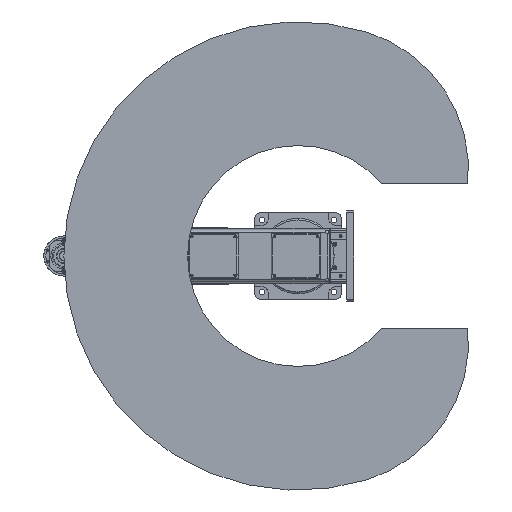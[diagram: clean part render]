
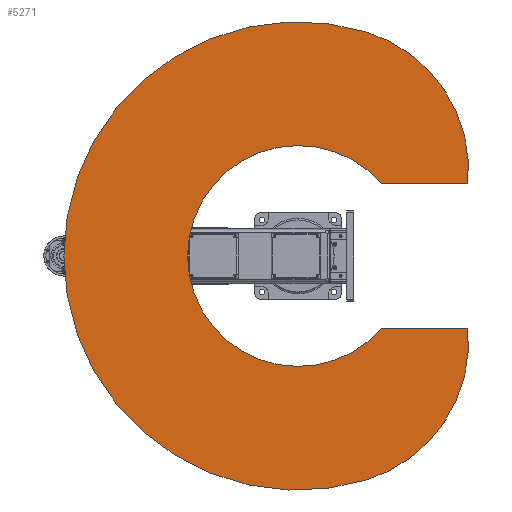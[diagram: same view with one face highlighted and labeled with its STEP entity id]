
A CAD part, front view. The second image highlights one B-rep face of the part: STEP entity #5271.
In plain terms, the highlighted planar face has unit normal (0, -1, 0).
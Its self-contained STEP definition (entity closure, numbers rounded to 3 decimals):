
#5271 = ADVANCED_FACE( '', ( #12225 ), #12226, .F. );
#12225 = FACE_OUTER_BOUND( '', #21467, .T. );
#12226 = PLANE( '', #21468 );
#21467 = EDGE_LOOP( '', ( #36864, #36865, #36866, #36867, #36868, #36869 ) );
#21468 = AXIS2_PLACEMENT_3D( '', #36870, #36871, #36872 );
#36864 = ORIENTED_EDGE( '', *, *, #52613, .F. );
#36865 = ORIENTED_EDGE( '', *, *, #52614, .F. );
#36866 = ORIENTED_EDGE( '', *, *, #50574, .T. );
#36867 = ORIENTED_EDGE( '', *, *, #52615, .F. );
#36868 = ORIENTED_EDGE( '', *, *, #52616, .F. );
#36869 = ORIENTED_EDGE( '', *, *, #52617, .F. );
#36870 = CARTESIAN_POINT( '', ( 239.076, 0., 73.093 ) );
#36871 = DIRECTION( '', ( 0., 1., 0. ) );
#36872 = DIRECTION( '', ( 0., 0., 1. ) );
#50574 = EDGE_CURVE( '', #60909, #60910, #60911, .T. );
#52613 = EDGE_CURVE( '', #63976, #63977, #63978, .T. );
#52614 = EDGE_CURVE( '', #60909, #63976, #63979, .T. );
#52615 = EDGE_CURVE( '', #63980, #60910, #63981, .T. );
#52616 = EDGE_CURVE( '', #63982, #63980, #63983, .T. );
#52617 = EDGE_CURVE( '', #63977, #63982, #63984, .T. );
#60909 = VERTEX_POINT( '', #76872 );
#60910 = VERTEX_POINT( '', #76873 );
#60911 = CIRCLE( '', #76874, 306.5 );
#63976 = VERTEX_POINT( '', #81886 );
#63977 = VERTEX_POINT( '', #81887 );
#63978 = CIRCLE( '', #81888, 400. );
#63979 = LINE( '', #81889, #81890 );
#63980 = VERTEX_POINT( '', #81891 );
#63981 = LINE( '', #81892, #81893 );
#63982 = VERTEX_POINT( '', #81894 );
#63983 = CIRCLE( '', #81895, 400. );
#63984 = CIRCLE( '', #81896, 650. );
#76872 = CARTESIAN_POINT( '', ( 200., 0., 232.255 ) );
#76873 = CARTESIAN_POINT( '', ( -200., 0., 232.255 ) );
#76874 = AXIS2_PLACEMENT_3D( '', #91146, #91147, #91148 );
#81886 = CARTESIAN_POINT( '', ( 200., 0., 471.18 ) );
#81887 = CARTESIAN_POINT( '', ( 621.598, 0., 190.042 ) );
#81888 = AXIS2_PLACEMENT_3D( '', #93613, #93614, #93615 );
#81889 = CARTESIAN_POINT( '', ( 200., 0., 232.255 ) );
#81890 = VECTOR( '', #93616, 1000. );
#81891 = CARTESIAN_POINT( '', ( -200., 0., 471.18 ) );
#81892 = CARTESIAN_POINT( '', ( -200., 0., 471.18 ) );
#81893 = VECTOR( '', #93617, 1000. );
#81894 = CARTESIAN_POINT( '', ( -621.598, 0., 190.042 ) );
#81895 = AXIS2_PLACEMENT_3D( '', #93618, #93619, #93620 );
#81896 = AXIS2_PLACEMENT_3D( '', #93621, #93622, #93623 );
#91146 = CARTESIAN_POINT( '', ( 0., 0., 0. ) );
#91147 = DIRECTION( '', ( 0., 1., 0. ) );
#91148 = DIRECTION( '', ( 1., 0., 0. ) );
#93613 = CARTESIAN_POINT( '', ( 239.076, 0., 73.093 ) );
#93614 = DIRECTION( '', ( 0., 1., 0. ) );
#93615 = DIRECTION( '', ( 1., 0., 0. ) );
#93616 = DIRECTION( '', ( 0., 0., 1. ) );
#93617 = DIRECTION( '', ( 0., 0., -1. ) );
#93618 = CARTESIAN_POINT( '', ( -239.076, 0., 73.093 ) );
#93619 = DIRECTION( '', ( 0., 1., 0. ) );
#93620 = DIRECTION( '', ( 1., 0., 0. ) );
#93621 = CARTESIAN_POINT( '', ( 0., 0., 0. ) );
#93622 = DIRECTION( '', ( 0., 1., 0. ) );
#93623 = DIRECTION( '', ( 1., 0., 0. ) );
